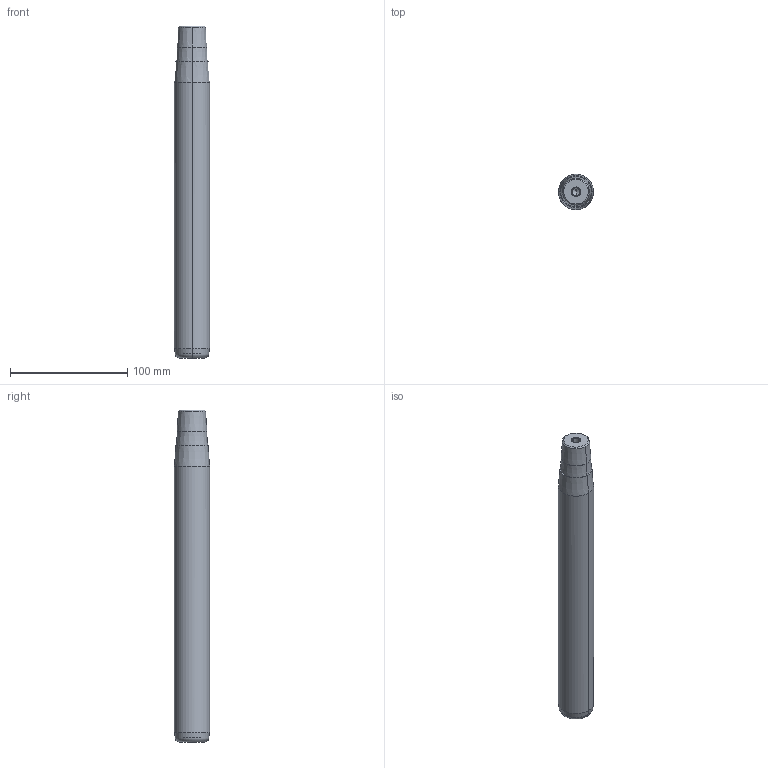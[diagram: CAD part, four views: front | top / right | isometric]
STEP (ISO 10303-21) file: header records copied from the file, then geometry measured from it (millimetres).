
FILE_DESCRIPTION(('CATIA V5 STEP Exchange'),'2;1');
FILE_NAME('C:\Users\Utente\Desktop\IO LAVORO\3D X SITO CF\X SITO\722\722-30x250x283.stp','2021-01-08T16:16:12+00:00',('none'),('none'),'CATIA Version 5 Release 20 GA (IN-10)','CATIA V5 STEP AP203','none');
FILE_SCHEMA(('CONFIG_CONTROL_DESIGN'));
Length unit declared in the file: millimetre
Products named in the file (1): 722-30x250x283
Bounding box: 30 x 30 x 283 mm (x, y, z)
Volume: 189742.2 mm3; surface area: 28087.7 mm2
Topology: 1 solids, 1 shells, 32 faces, 98 edges, 66 vertices
Faces by surface type: cone 22, cylinder 6, plane 2, torus 2
Entity records: 1166 total; most frequent: CARTESIAN_POINT 279, ORIENTED_EDGE 188, DIRECTION 148, EDGE_CURVE 94, AXIS2_PLACEMENT_3D 89, VERTEX_POINT 66, CIRCLE 56, EDGE_LOOP 34
